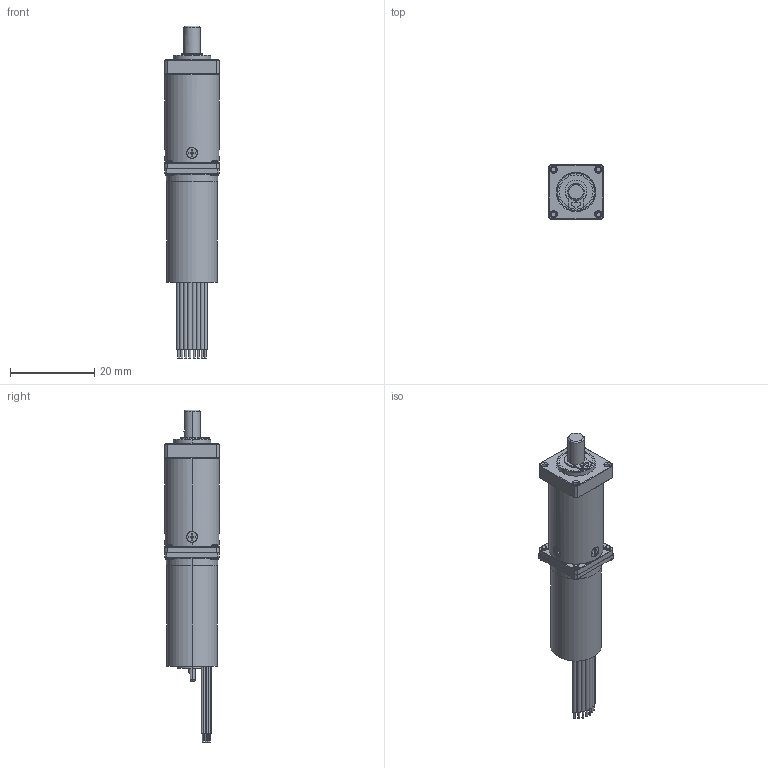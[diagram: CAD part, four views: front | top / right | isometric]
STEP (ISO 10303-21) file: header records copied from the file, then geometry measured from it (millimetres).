
FILE_DESCRIPTION (( 'STEP AP203' ), '1' );
FILE_NAME ('○TB12M242L11+SDP13HB-64.STEP', '2026-09-09T06:51:31', ( '' ), ( '' ), 'SwSTEP 2.0', 'SolidWorks 2026', '' );
FILE_SCHEMA (( 'CONFIG_CONTROL_DESIGN' ));
Length unit declared in the file: millimetre
Products named in the file (1): ○TB12M242L11+SDP13HB-64
Bounding box: 13 x 13 x 79 mm (x, y, z)
Volume: 6980.3 mm3; surface area: 3397.3 mm2
Topology: 1 solids, 15 shells, 660 faces, 1583 edges, 987 vertices
Faces by surface type: plane 240, cylinder 223, cone 117, torus 71, sphere 9
Entity records: 19910 total; most frequent: CARTESIAN_POINT 4602, DIRECTION 3271, ORIENTED_EDGE 3138, EDGE_CURVE 1569, AXIS2_PLACEMENT_3D 1318, VERTEX_POINT 985, EDGE_LOOP 722, FACE_OUTER_BOUND 660
